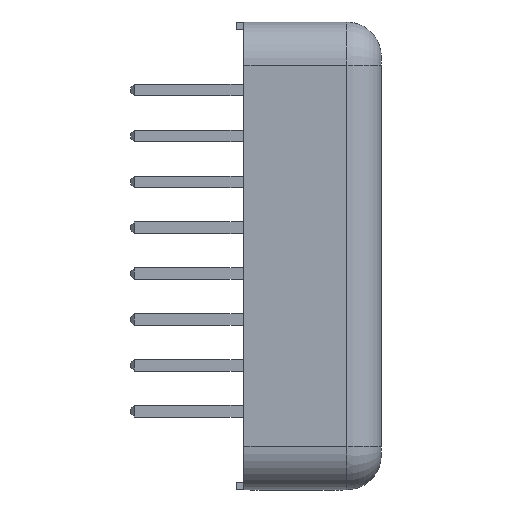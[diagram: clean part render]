
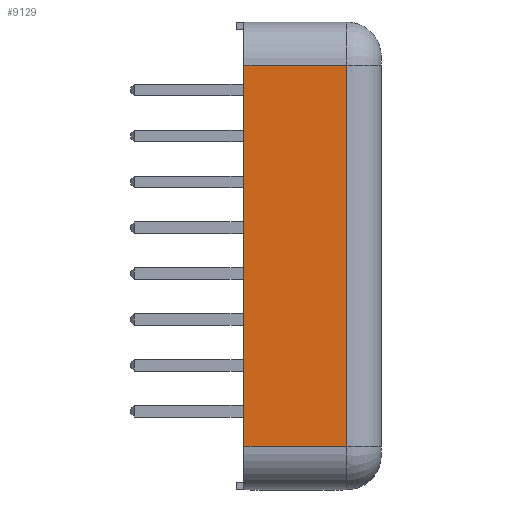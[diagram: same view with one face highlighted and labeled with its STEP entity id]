
A CAD part, left-side view. The second image highlights one B-rep face of the part: STEP entity #9129.
In plain terms, the highlighted planar face has unit normal (-1, 0, 0).
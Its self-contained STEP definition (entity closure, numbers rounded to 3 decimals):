
#869=VERTEX_POINT('',#14543);
#871=VERTEX_POINT('',#14551);
#873=VERTEX_POINT('',#14561);
#874=VERTEX_POINT('',#14563);
#1910=VECTOR('',#11183,1.);
#1912=VECTOR('',#11193,1.);
#1913=VECTOR('',#11194,1.);
#1914=VECTOR('',#11195,1.);
#3081=LINE('',#14552,#1910);
#3083=LINE('',#14560,#1912);
#3084=LINE('',#14562,#1913);
#3085=LINE('',#14564,#1914);
#4368=EDGE_CURVE('',#869,#871,#3081,.T.);
#4372=EDGE_CURVE('',#873,#869,#3083,.T.);
#4373=EDGE_CURVE('',#873,#874,#3084,.T.);
#4374=EDGE_CURVE('',#871,#874,#3085,.T.);
#6546=ORIENTED_EDGE('',*,*,#4368,.F.);
#6547=ORIENTED_EDGE('',*,*,#4372,.F.);
#6548=ORIENTED_EDGE('',*,*,#4373,.T.);
#6549=ORIENTED_EDGE('',*,*,#4374,.F.);
#7937=EDGE_LOOP('',(#6546,#6547,#6548,#6549));
#8562=FACE_BOUND('',#7937,.T.);
#9129=ADVANCED_FACE('',(#8562),#15655,.T.);
#9725=AXIS2_PLACEMENT_3D('',#14559,#11192,$);
#11183=DIRECTION('',(0.,0.,-1.));
#11192=DIRECTION('',(-1.,0.,0.));
#11193=DIRECTION('',(0.,-1.,0.));
#11194=DIRECTION('',(0.,0.,-1.));
#11195=DIRECTION('',(0.,1.,0.));
#14543=CARTESIAN_POINT('',(-19.95,-1.175,10.55));
#14551=CARTESIAN_POINT('',(-19.95,-1.175,-10.55));
#14552=CARTESIAN_POINT('',(-19.95,-1.175,0.));
#14559=CARTESIAN_POINT('',(-19.95,-3.075,0.));
#14560=CARTESIAN_POINT('',(-19.95,-3.075,10.55));
#14561=CARTESIAN_POINT('',(-19.95,4.525,10.55));
#14562=CARTESIAN_POINT('',(-19.95,4.525,-12.95));
#14563=CARTESIAN_POINT('',(-19.95,4.525,-10.55));
#14564=CARTESIAN_POINT('',(-19.95,-3.075,-10.55));
#15655=PLANE('',#9725);
